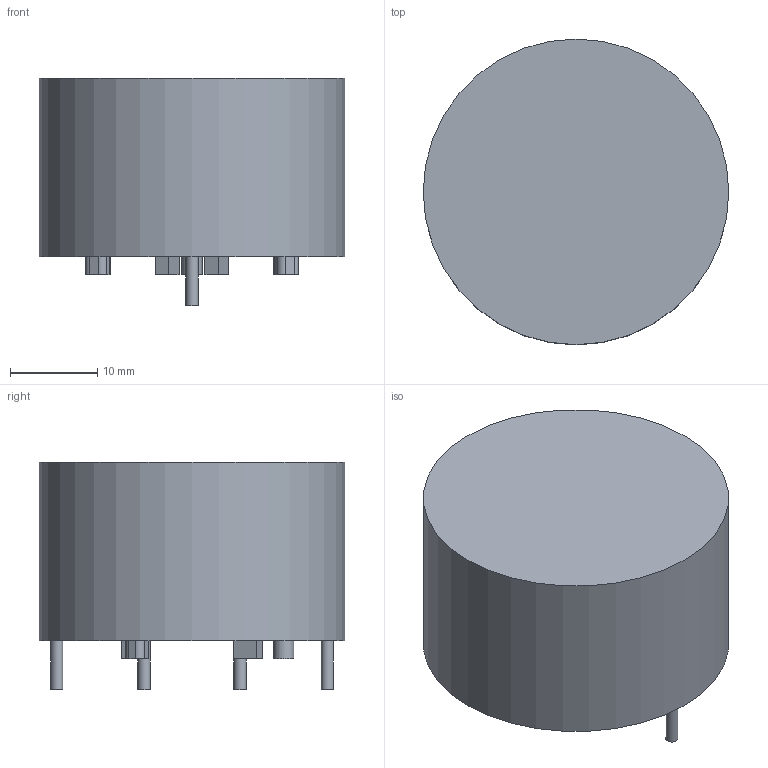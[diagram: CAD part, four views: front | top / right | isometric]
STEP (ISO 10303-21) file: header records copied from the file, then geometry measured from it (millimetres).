
FILE_DESCRIPTION(/* description */ (''),/* implementation_level */ '2;1');
FILE_NAME(/* name */ 'F:\2016年工作\2016年产品图纸\VAC\X2\4EA754C1\X0\3D模型\6102-X016\6102-X016 3D model.stp',/* time_stamp */ '2016-07-06T16:21:23+08:00',/* author */ ('CN000560'),/* organization */ (''),/* preprocessor_version */ 'ST-DEVELOPER v16.1',/* originating_system */ 'Autodesk Inventor 2016',/* authorisation */ '');
FILE_SCHEMA (('AUTOMOTIVE_DESIGN { 1 0 10303 214 3 1 1 }'));
Length unit declared in the file: millimetre
Products named in the file (1): 6102-X016 3D model
Bounding box: 35 x 35 x 26 mm (x, y, z)
Volume: 19713.1 mm3; surface area: 4355 mm2
Topology: 1 solids, 1 shells, 41 faces, 90 edges, 60 vertices
Faces by surface type: plane 27, cylinder 14
Full cylindrical faces by diameter (mm): 1.4 x4, 2.3 x1, 35 x1
Entity records: 1126 total; most frequent: DIRECTION 196, CARTESIAN_POINT 186, ORIENTED_EDGE 168, EDGE_CURVE 84, AXIS2_PLACEMENT_3D 70, VERTEX_POINT 60, EDGE_LOOP 56, LINE 56
